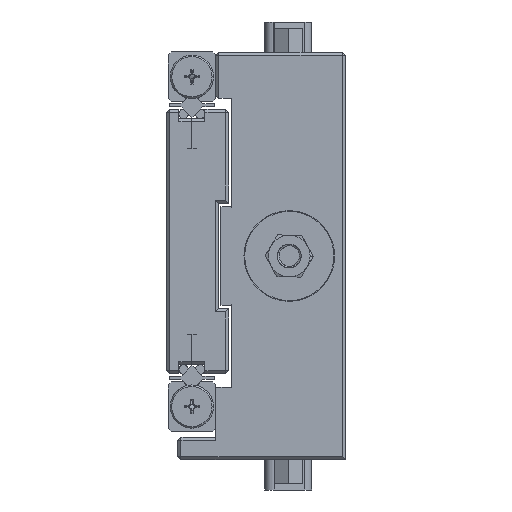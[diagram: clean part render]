
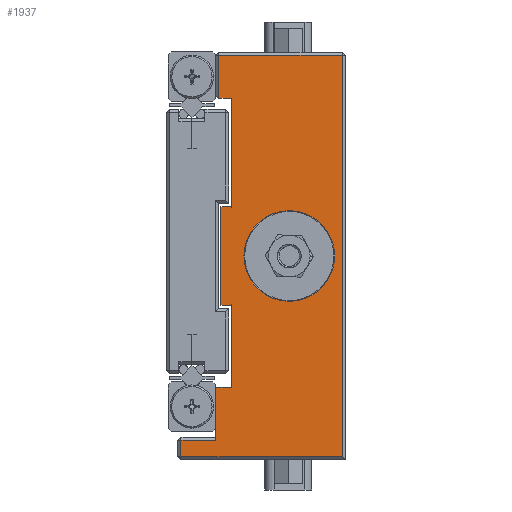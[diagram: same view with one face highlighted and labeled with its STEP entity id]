
A CAD part, left-side view. The second image highlights one B-rep face of the part: STEP entity #1937.
In plain terms, the highlighted planar face has unit normal (-1, 0, 0).
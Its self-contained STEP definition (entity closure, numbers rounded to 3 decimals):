
#50 = CARTESIAN_POINT ( 'NONE',  ( -152.4, 8.217, -12.141 ) ) ;
#195 = VECTOR ( 'NONE', #4131, 1000. ) ;
#215 = VECTOR ( 'NONE', #28238, 1000. ) ;
#1406 = EDGE_CURVE ( 'NONE', #15765, #22176, #19773, .T. ) ;
#1937 = ADVANCED_FACE ( 'NONE', ( #15383, #27995 ), #40771, .F. ) ;
#2006 = DIRECTION ( 'NONE',  ( 0., 0., 1. ) ) ;
#2368 = VECTOR ( 'NONE', #38877, 1000. ) ;
#2402 = ORIENTED_EDGE ( 'NONE', *, *, #12968, .T. ) ;
#2533 = VERTEX_POINT ( 'NONE', #25090 ) ;
#2626 = VERTEX_POINT ( 'NONE', #28849 ) ;
#3088 = LINE ( 'NONE', #15630, #215 ) ;
#3131 = CARTESIAN_POINT ( 'NONE',  ( -152.4, 16.726, -34.874 ) ) ;
#3244 = ORIENTED_EDGE ( 'NONE', *, *, #37596, .F. ) ;
#4038 = VECTOR ( 'NONE', #34401, 1000. ) ;
#4131 = DIRECTION ( 'NONE',  ( 0., -1., 0. ) ) ;
#4802 = LINE ( 'NONE', #17337, #34035 ) ;
#4814 = LINE ( 'NONE', #17348, #39937 ) ;
#5092 = VERTEX_POINT ( 'NONE', #21515 ) ;
#5184 = VERTEX_POINT ( 'NONE', #13084 ) ;
#5610 = CARTESIAN_POINT ( 'NONE',  ( -152.4, 8.217, -25.984 ) ) ;
#5675 = CARTESIAN_POINT ( 'NONE',  ( -152.4, 10.376, 22.657 ) ) ;
#6217 = CARTESIAN_POINT ( 'NONE',  ( -152.4, 8.217, 22.657 ) ) ;
#6457 = EDGE_CURVE ( 'NONE', #2533, #39724, #9143, .T. ) ;
#6489 = VERTEX_POINT ( 'NONE', #19182 ) ;
#6805 = VERTEX_POINT ( 'NONE', #3131 ) ;
#6962 = EDGE_CURVE ( 'NONE', #35173, #20724, #22656, .T. ) ;
#7033 = DIRECTION ( 'NONE',  ( 0., 1., 0. ) ) ;
#7188 = CARTESIAN_POINT ( 'NONE',  ( -152.4, 8.217, 4.369 ) ) ;
#7321 = CARTESIAN_POINT ( 'NONE',  ( -152.4, 10.884, 29.896 ) ) ;
#7717 = EDGE_CURVE ( 'NONE', #19847, #39724, #4802, .T. ) ;
#9143 = LINE ( 'NONE', #21691, #4038 ) ;
#9763 = CARTESIAN_POINT ( 'NONE',  ( -152.4, 16.726, -38.176 ) ) ;
#9768 = DIRECTION ( 'NONE',  ( 0., 0., 1. ) ) ;
#10316 = DIRECTION ( 'NONE',  ( 0., 0., 1. ) ) ;
#10644 = CARTESIAN_POINT ( 'NONE',  ( -152.4, -1.486, -3.886 ) ) ;
#11469 = ORIENTED_EDGE ( 'NONE', *, *, #21056, .T. ) ;
#11680 = ORIENTED_EDGE ( 'NONE', *, *, #1406, .T. ) ;
#11962 = CIRCLE ( 'NONE', #35107, 7.62 ) ;
#12082 = EDGE_CURVE ( 'NONE', #23191, #20724, #17626, .T. ) ;
#12228 = LINE ( 'NONE', #24780, #38706 ) ;
#12327 = CARTESIAN_POINT ( 'NONE',  ( -152.4, 10.884, -38.176 ) ) ;
#12640 = DIRECTION ( 'NONE',  ( 0., 1., 0. ) ) ;
#12914 = VECTOR ( 'NONE', #7033, 1000. ) ;
#12968 = EDGE_CURVE ( 'NONE', #22176, #22123, #3088, .T. ) ;
#13084 = CARTESIAN_POINT ( 'NONE',  ( -152.4, 8.217, -12.141 ) ) ;
#13222 = EDGE_CURVE ( 'NONE', #22123, #2533, #35670, .T. ) ;
#13328 = EDGE_CURVE ( 'NONE', #5184, #23191, #28337, .T. ) ;
#13570 = LINE ( 'NONE', #26145, #2368 ) ;
#13868 = CARTESIAN_POINT ( 'NONE',  ( -152.4, -1.486, -11.506 ) ) ;
#14092 = VECTOR ( 'NONE', #19873, 1000. ) ;
#14274 = AXIS2_PLACEMENT_3D ( 'NONE', #10644, #23203, #35929 ) ;
#14753 = VECTOR ( 'NONE', #12640, 1000. ) ;
#14757 = CARTESIAN_POINT ( 'NONE',  ( -152.4, -1.486, -3.886 ) ) ;
#15383 = FACE_BOUND ( 'NONE', #35485, .T. ) ;
#15630 = CARTESIAN_POINT ( 'NONE',  ( -152.4, -10.376, -38.176 ) ) ;
#15765 = VERTEX_POINT ( 'NONE', #24839 ) ;
#16395 = ORIENTED_EDGE ( 'NONE', *, *, #23777, .F. ) ;
#16588 = ORIENTED_EDGE ( 'NONE', *, *, #6962, .T. ) ;
#17337 = CARTESIAN_POINT ( 'NONE',  ( -152.4, -296.584, 22.657 ) ) ;
#17348 = CARTESIAN_POINT ( 'NONE',  ( -152.4, 8.217, -3.886 ) ) ;
#17626 = LINE ( 'NONE', #30284, #38587 ) ;
#19182 = CARTESIAN_POINT ( 'NONE',  ( -152.4, 10.884, -25.984 ) ) ;
#19773 = LINE ( 'NONE', #32461, #195 ) ;
#19847 = VERTEX_POINT ( 'NONE', #6217 ) ;
#19873 = DIRECTION ( 'NONE',  ( 0., 1., 0. ) ) ;
#20245 = CARTESIAN_POINT ( 'NONE',  ( -152.4, -10.376, 29.896 ) ) ;
#20378 = EDGE_CURVE ( 'NONE', #5092, #6805, #13570, .T. ) ;
#20489 = ORIENTED_EDGE ( 'NONE', *, *, #39913, .F. ) ;
#20636 = VECTOR ( 'NONE', #10316, 1000. ) ;
#20724 = VERTEX_POINT ( 'NONE', #26095 ) ;
#21056 = EDGE_CURVE ( 'NONE', #6805, #15765, #38159, .T. ) ;
#21515 = CARTESIAN_POINT ( 'NONE',  ( -152.4, 10.884, -34.874 ) ) ;
#21691 = CARTESIAN_POINT ( 'NONE',  ( -152.4, 10.376, 22.657 ) ) ;
#22123 = VERTEX_POINT ( 'NONE', #20245 ) ;
#22176 = VERTEX_POINT ( 'NONE', #33134 ) ;
#22298 = DIRECTION ( 'NONE',  ( 0., 0., -1. ) ) ;
#22656 = LINE ( 'NONE', #35377, #12914 ) ;
#23191 = VERTEX_POINT ( 'NONE', #32377 ) ;
#23203 = DIRECTION ( 'NONE',  ( -1., 0., 0. ) ) ;
#23415 = ORIENTED_EDGE ( 'NONE', *, *, #34389, .F. ) ;
#23777 = EDGE_CURVE ( 'NONE', #35173, #19847, #25956, .T. ) ;
#24780 = CARTESIAN_POINT ( 'NONE',  ( -152.4, -296.585, -25.984 ) ) ;
#24839 = CARTESIAN_POINT ( 'NONE',  ( -152.4, 16.726, -37.668 ) ) ;
#24864 = DIRECTION ( 'NONE',  ( 1., 0., 0. ) ) ;
#25090 = CARTESIAN_POINT ( 'NONE',  ( -152.4, 10.376, 29.896 ) ) ;
#25262 = AXIS2_PLACEMENT_3D ( 'NONE', #12327, #24864, #37617 ) ;
#25425 = LINE ( 'NONE', #38163, #26346 ) ;
#25956 = LINE ( 'NONE', #38710, #20636 ) ;
#26095 = CARTESIAN_POINT ( 'NONE',  ( -152.4, 9.995, 4.369 ) ) ;
#26145 = CARTESIAN_POINT ( 'NONE',  ( -152.4, 10.884, -34.874 ) ) ;
#26346 = VECTOR ( 'NONE', #9768, 1000. ) ;
#26738 = ORIENTED_EDGE ( 'NONE', *, *, #35599, .T. ) ;
#26892 = VERTEX_POINT ( 'NONE', #5610 ) ;
#27124 = ORIENTED_EDGE ( 'NONE', *, *, #20378, .T. ) ;
#27345 = DIRECTION ( 'NONE',  ( -1., 0., 0. ) ) ;
#27995 = FACE_OUTER_BOUND ( 'NONE', #34009, .T. ) ;
#28238 = DIRECTION ( 'NONE',  ( 0., 0., 1. ) ) ;
#28337 = LINE ( 'NONE', #50, #14753 ) ;
#28409 = ORIENTED_EDGE ( 'NONE', *, *, #13222, .T. ) ;
#28849 = CARTESIAN_POINT ( 'NONE',  ( -152.4, -1.486, 3.734 ) ) ;
#30004 = DIRECTION ( 'NONE',  ( 0., 1., 0. ) ) ;
#30018 = DIRECTION ( 'NONE',  ( 0., 0., 1. ) ) ;
#30284 = CARTESIAN_POINT ( 'NONE',  ( -152.4, 9.995, -3.886 ) ) ;
#30454 = VERTEX_POINT ( 'NONE', #13868 ) ;
#31360 = ORIENTED_EDGE ( 'NONE', *, *, #41033, .F. ) ;
#31753 = ORIENTED_EDGE ( 'NONE', *, *, #6457, .T. ) ;
#32122 = CIRCLE ( 'NONE', #14274, 7.62 ) ;
#32187 = ORIENTED_EDGE ( 'NONE', *, *, #7717, .F. ) ;
#32377 = CARTESIAN_POINT ( 'NONE',  ( -152.4, 9.995, -12.141 ) ) ;
#32461 = CARTESIAN_POINT ( 'NONE',  ( -152.4, -10.884, -37.668 ) ) ;
#33134 = CARTESIAN_POINT ( 'NONE',  ( -152.4, -10.376, -37.668 ) ) ;
#34009 = EDGE_LOOP ( 'NONE', ( #28409, #31753, #32187, #16395, #16588, #35697, #39270, #23415, #26738, #20489, #27124, #11469, #11680, #2402 ) ) ;
#34035 = VECTOR ( 'NONE', #30004, 1000. ) ;
#34389 = EDGE_CURVE ( 'NONE', #26892, #5184, #4814, .T. ) ;
#34401 = DIRECTION ( 'NONE',  ( 0., 0., -1. ) ) ;
#35107 = AXIS2_PLACEMENT_3D ( 'NONE', #14757, #27345, #40120 ) ;
#35173 = VERTEX_POINT ( 'NONE', #7188 ) ;
#35377 = CARTESIAN_POINT ( 'NONE',  ( -152.4, 8.217, 4.369 ) ) ;
#35485 = EDGE_LOOP ( 'NONE', ( #31360, #3244 ) ) ;
#35599 = EDGE_CURVE ( 'NONE', #26892, #6489, #12228, .T. ) ;
#35670 = LINE ( 'NONE', #7321, #14092 ) ;
#35697 = ORIENTED_EDGE ( 'NONE', *, *, #12082, .F. ) ;
#35929 = DIRECTION ( 'NONE',  ( 0., 0., 1. ) ) ;
#37534 = DIRECTION ( 'NONE',  ( 0., 1., 0. ) ) ;
#37596 = EDGE_CURVE ( 'NONE', #30454, #2626, #32122, .T. ) ;
#37617 = DIRECTION ( 'NONE',  ( 0., 0., -1. ) ) ;
#38159 = LINE ( 'NONE', #9763, #40706 ) ;
#38163 = CARTESIAN_POINT ( 'NONE',  ( -152.4, 10.884, -38.176 ) ) ;
#38587 = VECTOR ( 'NONE', #2006, 1000. ) ;
#38706 = VECTOR ( 'NONE', #37534, 1000. ) ;
#38710 = CARTESIAN_POINT ( 'NONE',  ( -152.4, 8.217, -3.886 ) ) ;
#38877 = DIRECTION ( 'NONE',  ( 0., 1., 0. ) ) ;
#39270 = ORIENTED_EDGE ( 'NONE', *, *, #13328, .F. ) ;
#39724 = VERTEX_POINT ( 'NONE', #5675 ) ;
#39913 = EDGE_CURVE ( 'NONE', #5092, #6489, #25425, .T. ) ;
#39937 = VECTOR ( 'NONE', #30018, 1000. ) ;
#40120 = DIRECTION ( 'NONE',  ( 0., 0., 1. ) ) ;
#40706 = VECTOR ( 'NONE', #22298, 1000. ) ;
#40771 = PLANE ( 'NONE',  #25262 ) ;
#41033 = EDGE_CURVE ( 'NONE', #2626, #30454, #11962, .T. ) ;
